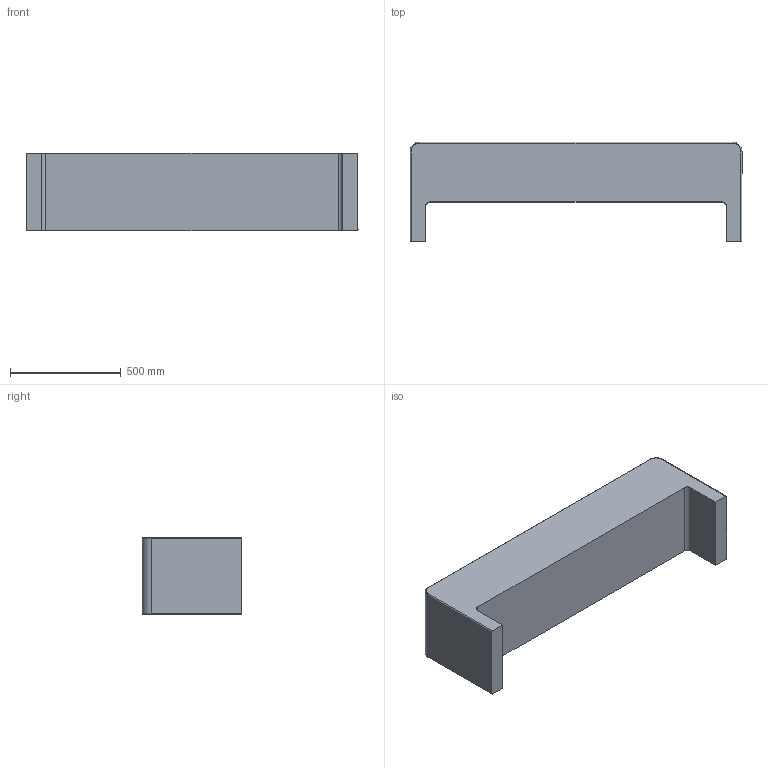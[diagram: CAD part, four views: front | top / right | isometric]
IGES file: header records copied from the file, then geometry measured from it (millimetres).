
Start section: SolidWorks IGES file using NURBS representation for surfaces
Global section: file name: G:\VICCARBE\PRODUCTOS\FAMILIAS 2D - 3D (PRODUCTOS VICCARBE)\3D (IGES + STL + DWG)\03-DAVOS\01-IGES\VICCARBE_Davos_Bench\VICCARBE_Davos_Bench150.IGS; native system: SolidWorks 2009; preprocessor: SolidWorks 2009; author: RUBEN; date: 110830.130848; units: millimetre
Bounding box: 1500 x 450 x 350 mm (x, y, z)
Surface area: 2322157.3 mm2 (no closed solid volume)
Topology: 0 solids, 0 shells, 24 faces, 200 edges, 200 vertices
Faces by surface type: bspline 24
